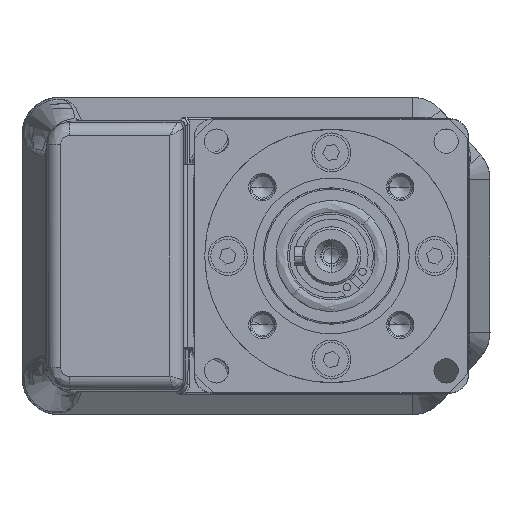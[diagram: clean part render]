
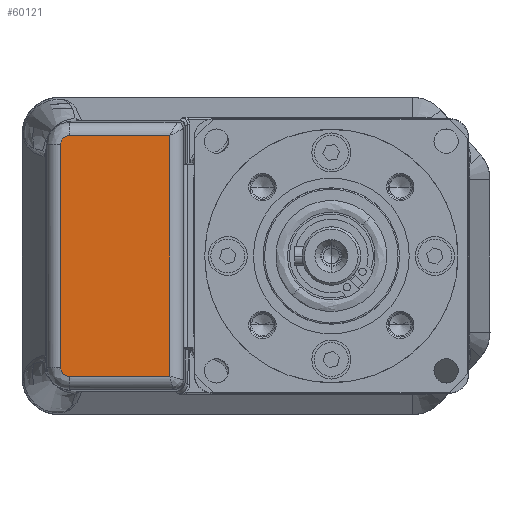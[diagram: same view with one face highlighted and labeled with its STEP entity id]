
A CAD part, left-side view. The second image highlights one B-rep face of the part: STEP entity #60121.
In plain terms, the highlighted planar face has unit normal (-1, 0, 0) as drawn and (0, 1, 0) by its records, which use the part's own axes.
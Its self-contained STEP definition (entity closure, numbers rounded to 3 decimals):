
#1360 = ORIENTED_EDGE ( 'NONE', *, *, #154360, .F. ) ;
#3002 = VERTEX_POINT ( 'NONE', #8209 ) ;
#3885 = CARTESIAN_POINT ( 'NONE',  ( 23.999, 53.267, 55.194 ) ) ;
#4015 = EDGE_CURVE ( 'NONE', #169267, #11782, #111014, .T. ) ;
#5702 = EDGE_LOOP ( 'NONE', ( #95849, #117136, #1360, #59266, #107173, #132060 ) ) ;
#8209 = CARTESIAN_POINT ( 'NONE',  ( 22.893, 53.267, 55.589 ) ) ;
#8811 = CARTESIAN_POINT ( 'NONE',  ( -24.673, 53.267, 54.062 ) ) ;
#8960 = PLANE ( 'NONE',  #85845 ) ;
#11782 = VERTEX_POINT ( 'NONE', #160854 ) ;
#16226 = VERTEX_POINT ( 'NONE', #158371 ) ;
#17286 = CARTESIAN_POINT ( 'NONE',  ( 24.109, 53.267, 55.101 ) ) ;
#17359 = EDGE_CURVE ( 'NONE', #84013, #169267, #31961, .T. ) ;
#21059 = CARTESIAN_POINT ( 'NONE',  ( -24.245, 53.267, 55.164 ) ) ;
#30576 = CARTESIAN_POINT ( 'NONE',  ( 24.326, 53.267, 54.896 ) ) ;
#30690 = EDGE_CURVE ( 'NONE', #83407, #16226, #31894, .T. ) ;
#31894 = LINE ( 'NONE', #158957, #168693 ) ;
#31961 = B_SPLINE_CURVE_WITH_KNOTS ( 'NONE', 3,
 ( #167533, #154250, #21059, #88198, #8811, #101503 ),
 .UNSPECIFIED., .F., .F.,
 ( 4, 2, 4 ),
 ( 0., 0.732, 1. ),
 .UNSPECIFIED. ) ;
#32419 = EDGE_CURVE ( 'NONE', #3002, #16226, #148741, .T. ) ;
#41044 = LINE ( 'NONE', #145918, #107413 ) ;
#43300 = CARTESIAN_POINT ( 'NONE',  ( 23.124, 53.267, 55.582 ) ) ;
#43867 = CARTESIAN_POINT ( 'NONE',  ( 24.63, 53.267, 54.28 ) ) ;
#52391 = DIRECTION ( 'NONE',  ( 0., 0., 1. ) ) ;
#57262 = CARTESIAN_POINT ( 'NONE',  ( 24.67, 53.267, 53.813 ) ) ;
#59266 = ORIENTED_EDGE ( 'NONE', *, *, #32419, .T. ) ;
#59474 = EDGE_CURVE ( 'NONE', #11782, #83407, #161218, .T. ) ;
#59662 = VECTOR ( 'NONE', #130310, 1000. ) ;
#60121 = ADVANCED_FACE ( 'NONE', ( #67830 ), #8960, .F. ) ;
#66367 = DIRECTION ( 'NONE',  ( 0., 0., -1. ) ) ;
#67830 = FACE_OUTER_BOUND ( 'NONE', #5702, .T. ) ;
#67952 = CARTESIAN_POINT ( 'NONE',  ( -24.67, 53.267, 58.677 ) ) ;
#69998 = CARTESIAN_POINT ( 'NONE',  ( 23.35, 53.267, 55.532 ) ) ;
#73077 = CARTESIAN_POINT ( 'NONE',  ( -22.893, 53.267, 55.589 ) ) ;
#75622 = DIRECTION ( 'NONE',  ( 0., -1., 0. ) ) ;
#75819 = VECTOR ( 'NONE', #66367, 1000. ) ;
#79963 = DIRECTION ( 'NONE',  ( -1., 0., 0. ) ) ;
#81324 = CARTESIAN_POINT ( 'NONE',  ( -24.67, 53.267, 53.813 ) ) ;
#83327 = CARTESIAN_POINT ( 'NONE',  ( 23.836, 53.267, 55.312 ) ) ;
#83407 = VERTEX_POINT ( 'NONE', #95872 ) ;
#84013 = VERTEX_POINT ( 'NONE', #73077 ) ;
#85845 = AXIS2_PLACEMENT_3D ( 'NONE', #154956, #75622, #168229 ) ;
#88198 = CARTESIAN_POINT ( 'NONE',  ( -24.625, 53.267, 54.312 ) ) ;
#95849 = ORIENTED_EDGE ( 'NONE', *, *, #4015, .F. ) ;
#95872 = CARTESIAN_POINT ( 'NONE',  ( 24.67, 53.267, 33.176 ) ) ;
#96627 = CARTESIAN_POINT ( 'NONE',  ( 24.066, 53.267, 55.139 ) ) ;
#101503 = CARTESIAN_POINT ( 'NONE',  ( -24.67, 53.267, 53.813 ) ) ;
#107173 = ORIENTED_EDGE ( 'NONE', *, *, #30690, .F. ) ;
#107413 = VECTOR ( 'NONE', #79963, 1000. ) ;
#109916 = CARTESIAN_POINT ( 'NONE',  ( 24.13, 53.267, 55.083 ) ) ;
#111014 = LINE ( 'NONE', #67952, #75819 ) ;
#117136 = ORIENTED_EDGE ( 'NONE', *, *, #17359, .F. ) ;
#123267 = CARTESIAN_POINT ( 'NONE',  ( 24.456, 53.267, 54.707 ) ) ;
#130310 = DIRECTION ( 'NONE',  ( 1., 0., 0. ) ) ;
#132060 = ORIENTED_EDGE ( 'NONE', *, *, #59474, .F. ) ;
#136001 = CARTESIAN_POINT ( 'NONE',  ( 22.893, 53.267, 55.589 ) ) ;
#136570 = CARTESIAN_POINT ( 'NONE',  ( 24.673, 53.267, 54.053 ) ) ;
#145918 = CARTESIAN_POINT ( 'NONE',  ( 0., 53.267, 55.589 ) ) ;
#148741 = B_SPLINE_CURVE_WITH_KNOTS ( 'NONE', 3,
 ( #136001, #43300, #69998, #162685, #83327, #3885, #96627, #17286, #109916, #30576, #123267, #43867, #136570, #57262 ),
 .UNSPECIFIED., .F., .F.,
 ( 4, 2, 1, 1, 2, 2, 2, 4 ),
 ( 0., 0.25, 0.375, 0.437, 0.469, 0.5, 0.75, 1. ),
 .UNSPECIFIED. ) ;
#154250 = CARTESIAN_POINT ( 'NONE',  ( -23.57, 53.267, 55.568 ) ) ;
#154360 = EDGE_CURVE ( 'NONE', #3002, #84013, #41044, .T. ) ;
#154956 = CARTESIAN_POINT ( 'NONE',  ( 0., 53.267, 58.677 ) ) ;
#158371 = CARTESIAN_POINT ( 'NONE',  ( 24.67, 53.267, 53.813 ) ) ;
#158957 = CARTESIAN_POINT ( 'NONE',  ( 24.67, 53.267, 44.397 ) ) ;
#160854 = CARTESIAN_POINT ( 'NONE',  ( -24.67, 53.267, 33.176 ) ) ;
#161218 = LINE ( 'NONE', #171427, #59662 ) ;
#162685 = CARTESIAN_POINT ( 'NONE',  ( 23.68, 53.267, 55.394 ) ) ;
#167533 = CARTESIAN_POINT ( 'NONE',  ( -22.893, 53.267, 55.589 ) ) ;
#168229 = DIRECTION ( 'NONE',  ( 1., 0., 0. ) ) ;
#168693 = VECTOR ( 'NONE', #52391, 1000. ) ;
#169267 = VERTEX_POINT ( 'NONE', #81324 ) ;
#171427 = CARTESIAN_POINT ( 'NONE',  ( 0., 53.267, 33.176 ) ) ;
